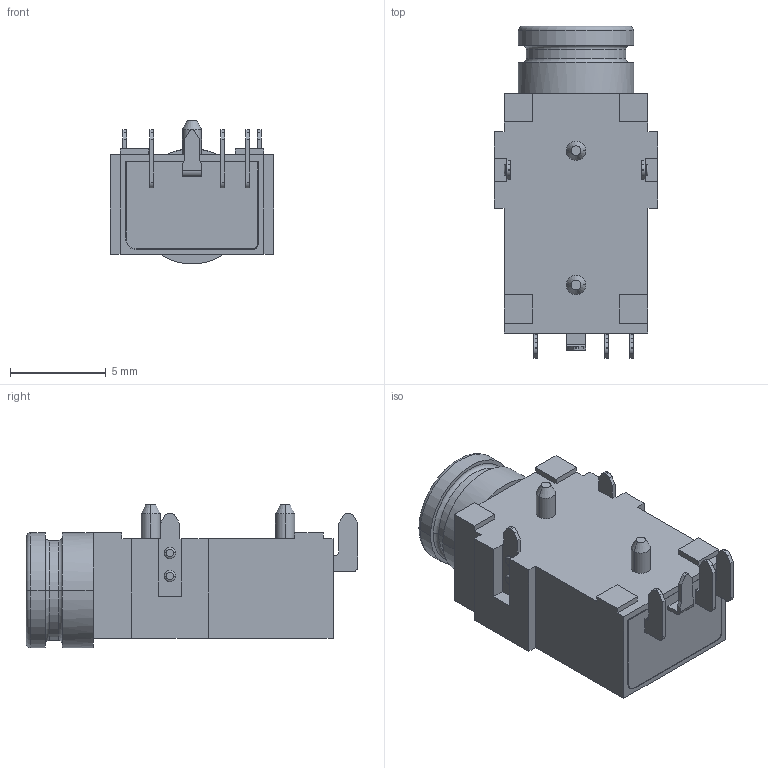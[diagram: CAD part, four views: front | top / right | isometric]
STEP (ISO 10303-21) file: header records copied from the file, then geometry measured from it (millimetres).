
FILE_DESCRIPTION((''),'2;1');
FILE_NAME('DM35A007-07DP','2026-06-28T',('WYH'),(''),'PRO/ENGINEER BY PARAMETRIC TECHNOLOGY CORPORATION, 2013040','PRO/ENGINEER BY PARAMETRIC TECHNOLOGY CORPORATION, 2013040','');
FILE_SCHEMA(('CONFIG_CONTROL_DESIGN'));
Length unit declared in the file: millimetre
Products named in the file (1): DM35A007-07DP
Bounding box: 8.5 x 17.3 x 7.5 mm (x, y, z)
Volume: 483.3 mm3; surface area: 750 mm2
Topology: 1 solids, 1 shells, 246 faces, 663 edges, 434 vertices
Faces by surface type: plane 176, cylinder 50, torus 14, cone 6
Entity records: 7731 total; most frequent: CARTESIAN_POINT 1411, ORIENTED_EDGE 1326, DIRECTION 1273, EDGE_CURVE 663, VECTOR 505, LINE 505, VERTEX_POINT 434, AXIS2_PLACEMENT_3D 384
